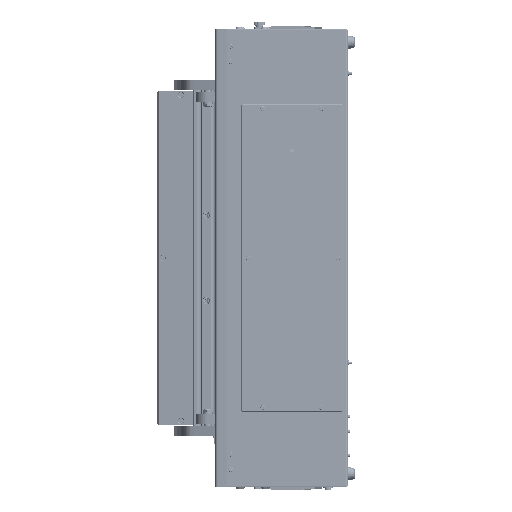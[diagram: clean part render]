
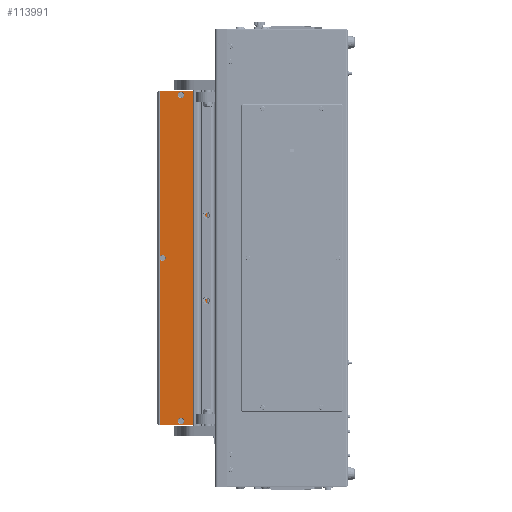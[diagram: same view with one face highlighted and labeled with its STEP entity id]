
A CAD part, left-side view. The second image highlights one B-rep face of the part: STEP entity #113991.
In plain terms, the highlighted planar face has unit normal (-0.996, 0.087, 0) as drawn and (0, 1, 0) by its records, which use the part's own axes.
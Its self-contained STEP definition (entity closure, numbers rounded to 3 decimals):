
#1980 = AXIS2_PLACEMENT_3D ( 'NONE', #105712, #163999, #106528 ) ;
#8974 = VERTEX_POINT ( 'NONE', #224297 ) ;
#13819 = DIRECTION ( 'NONE',  ( -1., 0., 0. ) ) ;
#15229 = ORIENTED_EDGE ( 'NONE', *, *, #219555, .T. ) ;
#19397 = CARTESIAN_POINT ( 'NONE',  ( 251., 4., 50.527 ) ) ;
#20660 = CARTESIAN_POINT ( 'NONE',  ( -251., 4., 50.527 ) ) ;
#20973 = DIRECTION ( 'NONE',  ( 0., 0., -1. ) ) ;
#24980 = DIRECTION ( 'NONE',  ( 0., 1., 0. ) ) ;
#26338 = EDGE_CURVE ( 'NONE', #106612, #46123, #89063, .T. ) ;
#28593 = CIRCLE ( 'NONE', #233799, 4.7 ) ;
#30357 = DIRECTION ( 'NONE',  ( 0., 1., 0. ) ) ;
#30426 = DIRECTION ( 'NONE',  ( -1., 0., 0. ) ) ;
#32635 = EDGE_CURVE ( 'NONE', #36127, #176883, #83233, .T. ) ;
#33795 = DIRECTION ( 'NONE',  ( 0., 1., 0. ) ) ;
#36127 = VERTEX_POINT ( 'NONE', #133758 ) ;
#36910 = FACE_OUTER_BOUND ( 'NONE', #61106, .T. ) ;
#39517 = CIRCLE ( 'NONE', #172818, 4.7 ) ;
#41498 = EDGE_CURVE ( 'NONE', #160746, #195321, #125851, .T. ) ;
#42467 = DIRECTION ( 'NONE',  ( 0., 0., 1. ) ) ;
#45712 = DIRECTION ( 'NONE',  ( 0., 0., 1. ) ) ;
#46123 = VERTEX_POINT ( 'NONE', #159418 ) ;
#53122 = LINE ( 'NONE', #118193, #76310 ) ;
#56445 = EDGE_CURVE ( 'NONE', #174039, #164577, #97970, .T. ) ;
#57003 = DIRECTION ( 'NONE',  ( 0., -1., 0. ) ) ;
#61044 = CARTESIAN_POINT ( 'NONE',  ( -251., 4., -20.923 ) ) ;
#61106 = EDGE_LOOP ( 'NONE', ( #15229, #90662, #126910, #158382, #90817, #131975, #208473 ) ) ;
#61849 = DIRECTION ( 'NONE',  ( 1., 0., 0. ) ) ;
#72168 = ORIENTED_EDGE ( 'NONE', *, *, #56445, .F. ) ;
#74793 = CARTESIAN_POINT ( 'NONE',  ( 0., 4., 0. ) ) ;
#76310 = VECTOR ( 'NONE', #61849, 1000. ) ;
#80062 = VERTEX_POINT ( 'NONE', #198533 ) ;
#82111 = CARTESIAN_POINT ( 'NONE',  ( -245.016, 4., 15.502 ) ) ;
#83233 = LINE ( 'NONE', #19397, #123478 ) ;
#83935 = AXIS2_PLACEMENT_3D ( 'NONE', #87231, #164803, #201139 ) ;
#87231 = CARTESIAN_POINT ( 'NONE',  ( -245.016, 4., 10.802 ) ) ;
#89031 = CARTESIAN_POINT ( 'NONE',  ( 245.016, 4., 6.102 ) ) ;
#89063 = CIRCLE ( 'NONE', #83935, 4.7 ) ;
#90662 = ORIENTED_EDGE ( 'NONE', *, *, #190054, .F. ) ;
#90817 = ORIENTED_EDGE ( 'NONE', *, *, #41498, .T. ) ;
#93981 = DIRECTION ( 'NONE',  ( 0., 0., -1. ) ) ;
#97970 = CIRCLE ( 'NONE', #197415, 4.7 ) ;
#99868 = ORIENTED_EDGE ( 'NONE', *, *, #26338, .F. ) ;
#103739 = CARTESIAN_POINT ( 'NONE',  ( -251., 4., -20.923 ) ) ;
#105712 = CARTESIAN_POINT ( 'NONE',  ( 0., 4., -16.906 ) ) ;
#106528 = DIRECTION ( 'NONE',  ( 0., 0., 1. ) ) ;
#106612 = VERTEX_POINT ( 'NONE', #82111 ) ;
#109477 = VECTOR ( 'NONE', #13819, 1000. ) ;
#111439 = EDGE_CURVE ( 'NONE', #8974, #160746, #216402, .T. ) ;
#112634 = EDGE_LOOP ( 'NONE', ( #72168, #198947 ) ) ;
#113991 = ADVANCED_FACE ( 'NONE', ( #175651, #135044, #36910 ), #185361, .F. ) ;
#118193 = CARTESIAN_POINT ( 'NONE',  ( -251., 4., 50.527 ) ) ;
#123478 = VECTOR ( 'NONE', #20973, 1000. ) ;
#124394 = CARTESIAN_POINT ( 'NONE',  ( 0., 4., -16.906 ) ) ;
#125851 = LINE ( 'NONE', #135984, #151882 ) ;
#126289 = DIRECTION ( 'NONE',  ( 0., 1., 0. ) ) ;
#126910 = ORIENTED_EDGE ( 'NONE', *, *, #147934, .F. ) ;
#131975 = ORIENTED_EDGE ( 'NONE', *, *, #236848, .T. ) ;
#133758 = CARTESIAN_POINT ( 'NONE',  ( 251., 4., 50.527 ) ) ;
#135044 = FACE_BOUND ( 'NONE', #112634, .T. ) ;
#135984 = CARTESIAN_POINT ( 'NONE',  ( -251., 4., 50.527 ) ) ;
#138222 = ORIENTED_EDGE ( 'NONE', *, *, #191110, .F. ) ;
#139229 = CARTESIAN_POINT ( 'NONE',  ( 245.016, 4., 15.502 ) ) ;
#142792 = CARTESIAN_POINT ( 'NONE',  ( -251., 4., -20.923 ) ) ;
#147934 = EDGE_CURVE ( 'NONE', #8974, #80062, #213774, .T. ) ;
#150045 = VERTEX_POINT ( 'NONE', #234801 ) ;
#151882 = VECTOR ( 'NONE', #42467, 1000. ) ;
#156292 = CARTESIAN_POINT ( 'NONE',  ( 245.016, 4., 10.802 ) ) ;
#156388 = VECTOR ( 'NONE', #30426, 1000. ) ;
#158382 = ORIENTED_EDGE ( 'NONE', *, *, #111439, .T. ) ;
#159418 = CARTESIAN_POINT ( 'NONE',  ( -245.016, 4., 6.102 ) ) ;
#160746 = VERTEX_POINT ( 'NONE', #61044 ) ;
#161096 = EDGE_LOOP ( 'NONE', ( #99868, #138222 ) ) ;
#162935 = DIRECTION ( 'NONE',  ( 0., 0., 1. ) ) ;
#163999 = DIRECTION ( 'NONE',  ( 0., 1., 0. ) ) ;
#164577 = VERTEX_POINT ( 'NONE', #89031 ) ;
#164803 = DIRECTION ( 'NONE',  ( 0., 1., 0. ) ) ;
#165041 = LINE ( 'NONE', #103739, #156388 ) ;
#172818 = AXIS2_PLACEMENT_3D ( 'NONE', #236412, #33795, #162935 ) ;
#173674 = AXIS2_PLACEMENT_3D ( 'NONE', #124394, #126289, #199082 ) ;
#174039 = VERTEX_POINT ( 'NONE', #139229 ) ;
#175651 = FACE_BOUND ( 'NONE', #161096, .T. ) ;
#176883 = VERTEX_POINT ( 'NONE', #202845 ) ;
#181973 = CIRCLE ( 'NONE', #1980, 4.7 ) ;
#185361 = PLANE ( 'NONE',  #228079 ) ;
#190054 = EDGE_CURVE ( 'NONE', #80062, #150045, #181973, .T. ) ;
#191110 = EDGE_CURVE ( 'NONE', #46123, #106612, #39517, .T. ) ;
#191986 = DIRECTION ( 'NONE',  ( 0., 0., 1. ) ) ;
#195321 = VERTEX_POINT ( 'NONE', #20660 ) ;
#197415 = AXIS2_PLACEMENT_3D ( 'NONE', #229172, #24980, #191986 ) ;
#198533 = CARTESIAN_POINT ( 'NONE',  ( 0., 4., -12.206 ) ) ;
#198947 = ORIENTED_EDGE ( 'NONE', *, *, #231835, .F. ) ;
#199082 = DIRECTION ( 'NONE',  ( 0., 0., 1. ) ) ;
#201139 = DIRECTION ( 'NONE',  ( 0., 0., 1. ) ) ;
#202845 = CARTESIAN_POINT ( 'NONE',  ( 251., 4., -20.923 ) ) ;
#208473 = ORIENTED_EDGE ( 'NONE', *, *, #32635, .T. ) ;
#213774 = CIRCLE ( 'NONE', #173674, 4.7 ) ;
#216402 = LINE ( 'NONE', #142792, #109477 ) ;
#219555 = EDGE_CURVE ( 'NONE', #176883, #150045, #165041, .T. ) ;
#224297 = CARTESIAN_POINT ( 'NONE',  ( -2.441, 4., -20.923 ) ) ;
#228079 = AXIS2_PLACEMENT_3D ( 'NONE', #74793, #57003, #93981 ) ;
#229172 = CARTESIAN_POINT ( 'NONE',  ( 245.016, 4., 10.802 ) ) ;
#231835 = EDGE_CURVE ( 'NONE', #164577, #174039, #28593, .T. ) ;
#233799 = AXIS2_PLACEMENT_3D ( 'NONE', #156292, #30357, #45712 ) ;
#234801 = CARTESIAN_POINT ( 'NONE',  ( 2.441, 4., -20.923 ) ) ;
#236412 = CARTESIAN_POINT ( 'NONE',  ( -245.016, 4., 10.802 ) ) ;
#236848 = EDGE_CURVE ( 'NONE', #195321, #36127, #53122, .T. ) ;
